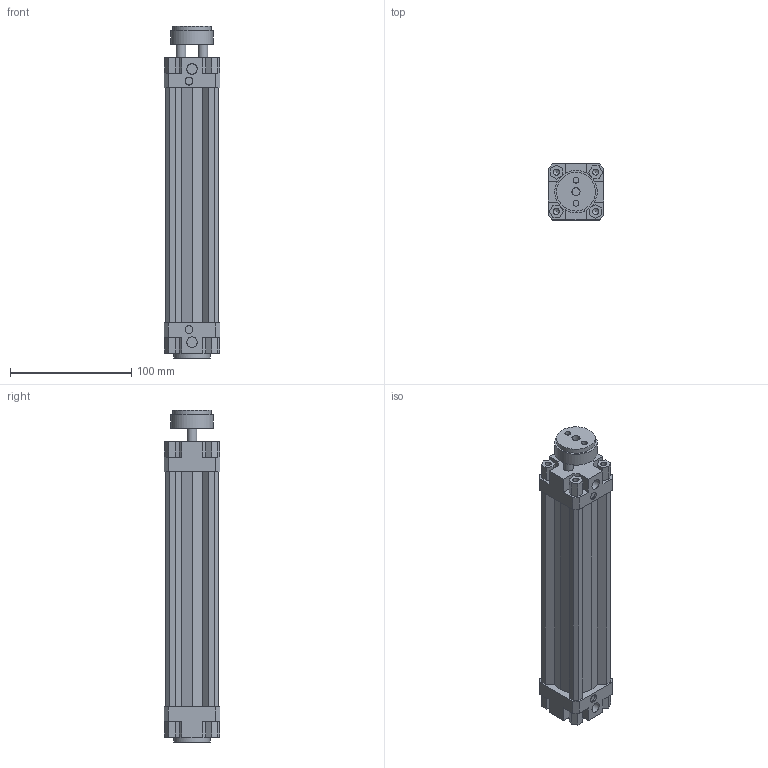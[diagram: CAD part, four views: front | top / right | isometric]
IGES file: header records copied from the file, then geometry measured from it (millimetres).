
Global section: file name: 132#_032_0150_01; native system: Autodesk Inventor 2014; preprocessor: unknown; author: A. Manieri; date: 20161006.154656; units: millimetre
Bounding box: 46 x 46 x 274 mm (x, y, z)
Volume: 283561.2 mm3; surface area: 98793.7 mm2
Topology: 2 solids, 2 shells, 187 faces, 507 edges, 343 vertices
Faces by surface type: bspline 187
